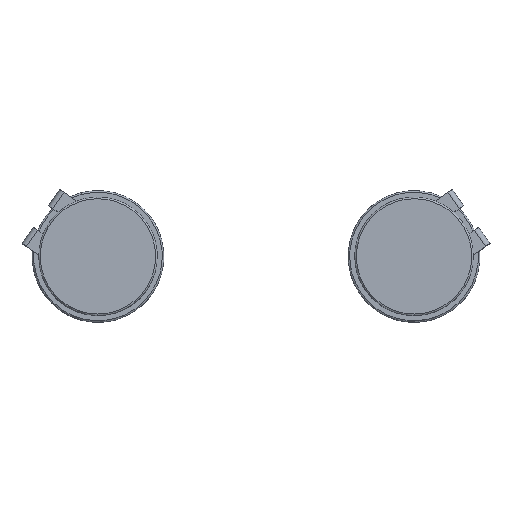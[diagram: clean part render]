
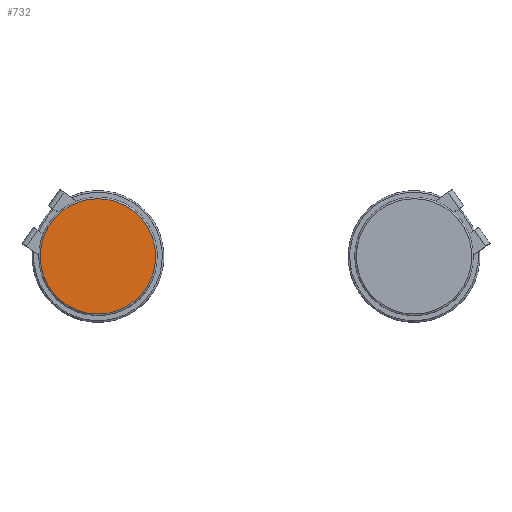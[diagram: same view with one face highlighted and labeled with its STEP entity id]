
A CAD part, top view. The second image highlights one B-rep face of the part: STEP entity #732.
In plain terms, the highlighted planar face has unit normal (0, 0.028, 1).
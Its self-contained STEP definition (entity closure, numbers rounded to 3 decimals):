
#59=PLANE('',#804);
#86=FACE_OUTER_BOUND('',#128,.T.);
#128=EDGE_LOOP('',(#536));
#263=CIRCLE('',#795,11.13);
#315=VERTEX_POINT('',#1178);
#395=EDGE_CURVE('',#315,#315,#263,.T.);
#536=ORIENTED_EDGE('',*,*,#395,.F.);
#732=ADVANCED_FACE('',(#86),#59,.T.);
#795=AXIS2_PLACEMENT_3D('',#1179,#916,#917);
#804=AXIS2_PLACEMENT_3D('',#1203,#936,#937);
#916=DIRECTION('center_axis',(0.,-0.028,-1.));
#917=DIRECTION('ref_axis',(0.671,-0.741,0.021));
#936=DIRECTION('center_axis',(0.,0.028,1.));
#937=DIRECTION('ref_axis',(1.,0.,0.));
#1178=CARTESIAN_POINT('',(13559.196,10363.651,-888.789));
#1179=CARTESIAN_POINT('Origin',(13570.326,10363.651,-888.789));
#1203=CARTESIAN_POINT('Origin',(13600.806,10881.607,-903.311));
